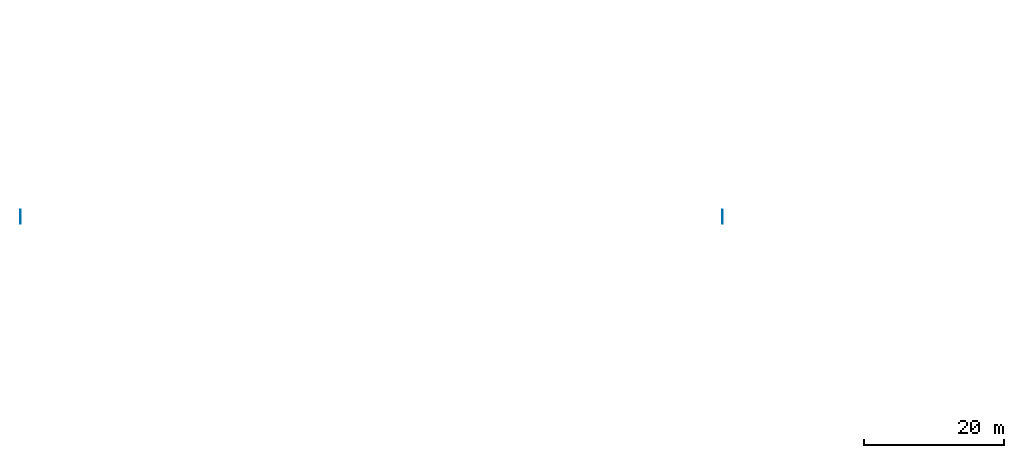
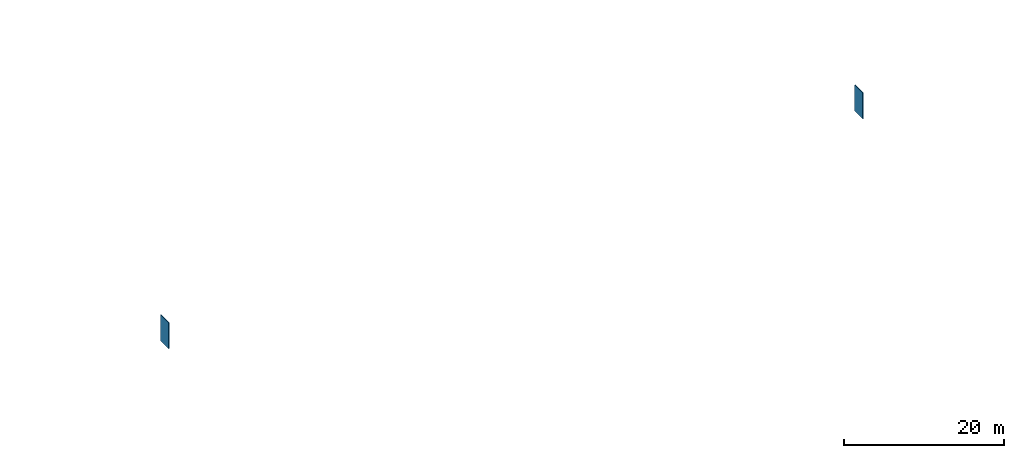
# One storey, part 29 of 164: 2 walls.
"""IFC2X3 building model written with IfcOpenShell, lengths in millimetres."""

from ifc_helpers import new_model, entity, si_unit, converted_unit, derived_unit, direction, frame, frame_2d, origin, place, context, subcontext, project, spatial, rectangle, extrude, material, layer, layer_set, layer_usage, type_object, element, save


model = new_model("IFC2X3")

# Units and contexts
model_context = context("Model", 3, precision=0.01, world=origin(), true_north=direction((6.12303176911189e-17, 1.0)))
body_context = subcontext(model_context, "Body", "Model", "MODEL_VIEW")
ifc_project = project(units=[si_unit("LENGTHUNIT", "METRE", prefix="MILLI"), si_unit("AREAUNIT", "SQUARE_METRE"), si_unit("VOLUMEUNIT", "CUBIC_METRE"), converted_unit("PLANEANGLEUNIT", "DEGREE", entity("IfcRatioMeasure", 0.0174532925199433), si_unit("PLANEANGLEUNIT", "RADIAN"), dimensions=[0, 0, 0, 0, 0, 0, 0]), si_unit("MASSUNIT", "GRAM", prefix="KILO"), derived_unit("MASSDENSITYUNIT", [(si_unit("MASSUNIT", "GRAM", prefix="KILO"), 1), (si_unit("LENGTHUNIT", "METRE"), -3)]), derived_unit("MOMENTOFINERTIAUNIT", [(si_unit("LENGTHUNIT", "METRE"), 4)]), si_unit("TIMEUNIT", "SECOND"), si_unit("FREQUENCYUNIT", "HERTZ"), si_unit("THERMODYNAMICTEMPERATUREUNIT", "DEGREE_CELSIUS"), derived_unit("THERMALTRANSMITTANCEUNIT", [(si_unit("MASSUNIT", "GRAM", prefix="KILO"), 1), (si_unit("THERMODYNAMICTEMPERATUREUNIT", "KELVIN"), -1), (si_unit("TIMEUNIT", "SECOND"), -3)]), derived_unit("VOLUMETRICFLOWRATEUNIT", [(si_unit("LENGTHUNIT", "METRE"), 3), (si_unit("TIMEUNIT", "SECOND"), -1)]), si_unit("ELECTRICCURRENTUNIT", "AMPERE"), si_unit("ELECTRICVOLTAGEUNIT", "VOLT"), si_unit("POWERUNIT", "WATT"), si_unit("FORCEUNIT", "NEWTON", prefix="KILO"), si_unit("ILLUMINANCEUNIT", "LUX"), si_unit("LUMINOUSFLUXUNIT", "LUMEN"), si_unit("LUMINOUSINTENSITYUNIT", "CANDELA"), derived_unit("USERDEFINED", [(si_unit("MASSUNIT", "GRAM", prefix="KILO"), -1), (si_unit("LENGTHUNIT", "METRE"), -2), (si_unit("TIMEUNIT", "SECOND"), 3), (si_unit("LUMINOUSFLUXUNIT", "LUMEN"), 1)]), derived_unit("LINEARVELOCITYUNIT", [(si_unit("LENGTHUNIT", "METRE"), 1), (si_unit("TIMEUNIT", "SECOND"), -1)]), si_unit("PRESSUREUNIT", "PASCAL"), derived_unit("USERDEFINED", [(si_unit("LENGTHUNIT", "METRE"), -2), (si_unit("MASSUNIT", "GRAM", prefix="KILO"), 1), (si_unit("TIMEUNIT", "SECOND"), -2)]), derived_unit("LINEARFORCEUNIT", [(si_unit("MASSUNIT", "GRAM", prefix="KILO"), 1), (si_unit("LENGTHUNIT", "METRE"), 1), (si_unit("TIMEUNIT", "SECOND"), -2), (si_unit("LENGTHUNIT", "METRE"), -1)]), derived_unit("PLANARFORCEUNIT", [(si_unit("MASSUNIT", "GRAM", prefix="KILO"), 1), (si_unit("LENGTHUNIT", "METRE"), 1), (si_unit("TIMEUNIT", "SECOND"), -2), (si_unit("LENGTHUNIT", "METRE"), -2)])], contexts=[model_context])

# Site, building, storey
site_placement = place(None, origin())
site = spatial("IfcSite", under=ifc_project, at=site_placement, Name="Default", CompositionType="ELEMENT")
building_placement = place(site_placement, origin())
building = spatial("IfcBuilding", under=site, at=building_placement, CompositionType="ELEMENT")
storey_placement = place(building_placement, origin())
storey = spatial("IfcBuildingStorey", under=building, at=storey_placement, Name="Level 1", CompositionType="ELEMENT", Elevation=0.0)

# Walls
ifc_material = material(Name="Default Wall")
ifc_layer = layer(ifc_material, 100.0)
ifc_layer_set = layer_set([ifc_layer], Name="Basic Wall:Generic - 100mm")
ifc_layer_usage_1 = layer_usage(ifc_layer_set, "AXIS2", "NEGATIVE", 50.0)
wall_type = type_object("IfcWallType", Name="Basic Wall:Generic - 100mm", PredefinedType="STANDARD", material=ifc_layer_set)
wall_1_placement = place(storey_placement, frame((50.0, 601000.0, 0.0), z_axis=(0.0, 0.0, 1.0), x_axis=(0.0, -1.0, 0.0)))
element("IfcWallStandardCase", 1, at=wall_1_placement, inside=storey, type_object=wall_type, material=ifc_layer_usage_1, Name="Basic Wall:Generic - 100mm", ObjectType="Basic Wall:Generic - 100mm", context=body_context, shape_type="SweptSolid", body=[
    extrude(rectangle(XDim=1999.99999999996, YDim=100.0, at=frame_2d((999.999999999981, 0.0), x_axis=(-1.0, 0.0))), origin(), (0.0, 0.0, 1.0), 4000.0),
])
ifc_layer_usage_2 = layer_usage(ifc_layer_set, "AXIS2", "NEGATIVE", 50.0)
wall_2_placement = place(storey_placement, frame((100050.0, 601000.0, 0.0), z_axis=(0.0, 0.0, 1.0), x_axis=(0.0, -1.0, 0.0)))
element("IfcWallStandardCase", 2, at=wall_2_placement, inside=storey, type_object=wall_type, material=ifc_layer_usage_2, Name="Basic Wall:Generic - 100mm", ObjectType="Basic Wall:Generic - 100mm", context=body_context, shape_type="SweptSolid", body=[
    extrude(rectangle(XDim=1999.99999999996, YDim=100.000000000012, at=frame_2d((999.999999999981, 1.60582658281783e-12), x_axis=(-1.0, 0.0))), origin(), (0.0, 0.0, 1.0), 4000.0),
])

save(model, "model.ifc")
